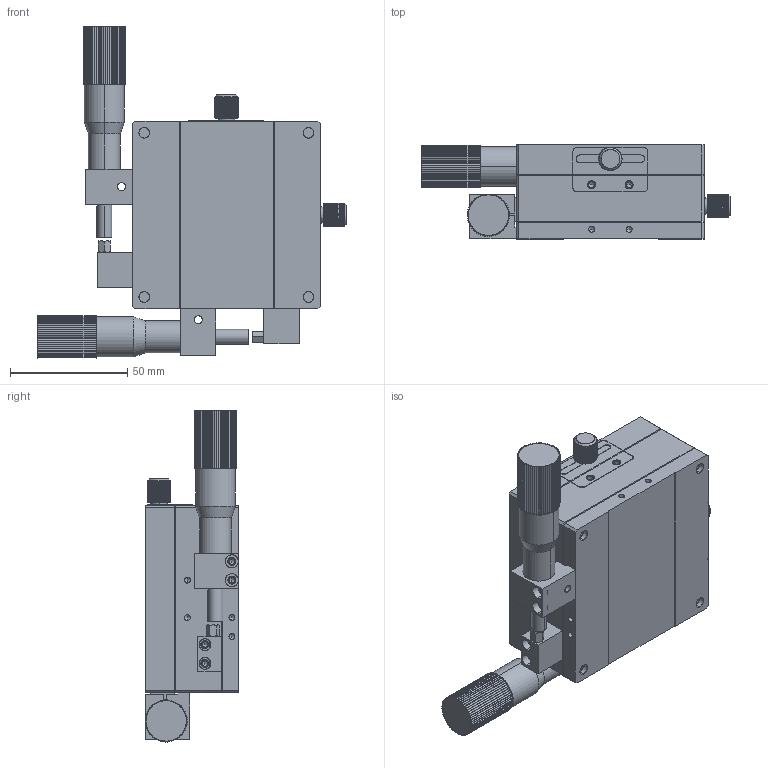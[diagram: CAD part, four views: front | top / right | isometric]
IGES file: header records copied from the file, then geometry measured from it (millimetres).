
Start section: SolidWorks IGES file using analytic representation for surfaces
Bounding box: 131.7 x 40 x 141.49 mm (x, y, z)
Surface area: 76853.4 mm2 (no closed solid volume)
Topology: 0 solids, 0 shells, 1249 faces, 14456 edges, 14400 vertices
Faces by surface type: revolution 858, bspline 391
